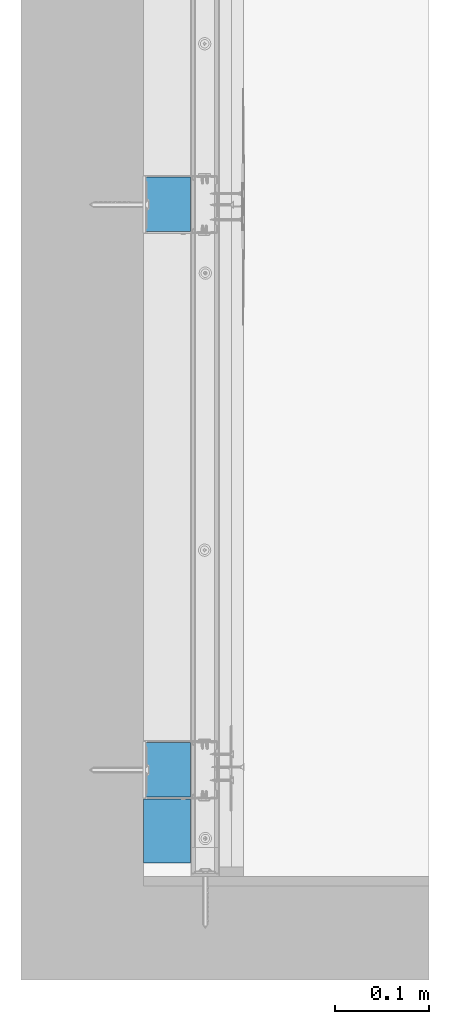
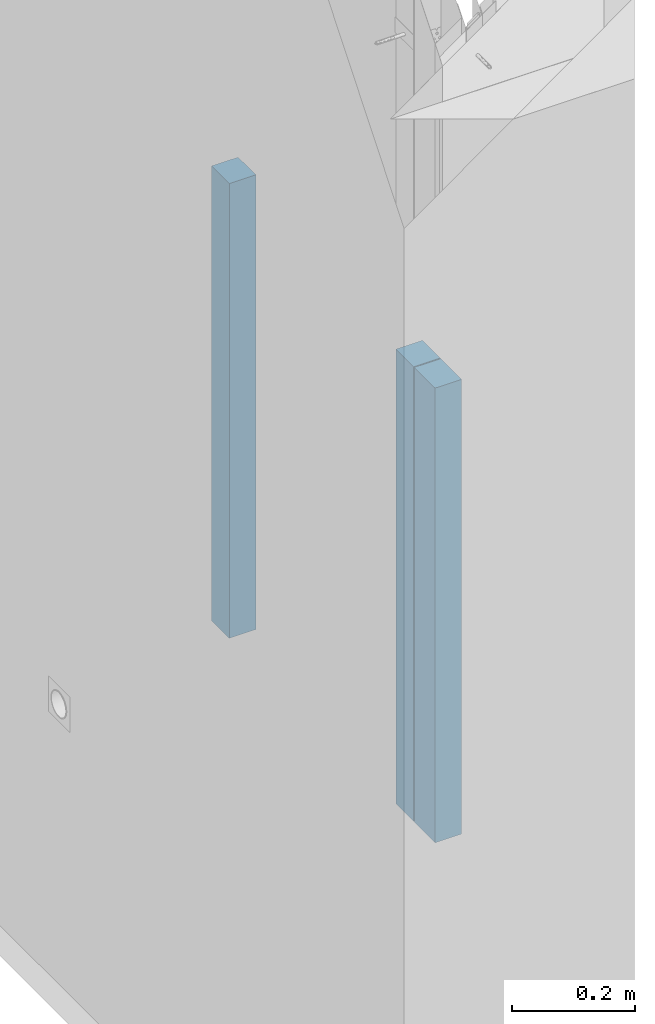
# One storey, part 9 of 61: 3 walls.
"""IFC2X3 building model written with IfcOpenShell, lengths in millimetres."""

from ifc_helpers import new_model, si_unit, frame, origin_with_axes, place, context, subcontext, project, spatial, faceted_brep, material, type_object, element, save


model = new_model("IFC2X3")

# Units and contexts
model_context = context("Model", 3, world=origin_with_axes())
body_context = subcontext(model_context, "Body", "Model", "MODEL_VIEW")
ifc_project = project(units=[si_unit("LENGTHUNIT", "METRE", prefix="MILLI"), si_unit("AREAUNIT", "SQUARE_METRE"), si_unit("VOLUMEUNIT", "CUBIC_METRE")], contexts=[model_context])

# Site, building, storey
site_placement = place(None, frame((2152.1410261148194, -2015.0250894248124, 57.61556563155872), z_axis=(0.0, 0.0, 1.0), x_axis=(-1.1102230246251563e-16, 1.0, 0.0)))
site = spatial("IfcSite", under=ifc_project, at=site_placement, Name="Default Site", CompositionType="ELEMENT")
building_placement = place(site_placement, origin_with_axes())
building = spatial("IfcBuilding", under=site, at=building_placement, Name="Default Building", CompositionType="ELEMENT")
storey_placement = place(building_placement, origin_with_axes())
storey = spatial("IfcBuildingStorey", under=building, at=storey_placement, Name="Default Building Storey", CompositionType="ELEMENT", Elevation=57.61556563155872)

# Walls
ifc_material_1 = material(Name="Default")
wall_type_1 = type_object("IfcWallType", Name="Wypełnienie z wełny mineralnej szklanej ISOVER#18", PredefinedType="NOTDEFINED")
wall_1_placement = place(storey_placement, frame((2641.062306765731, 5350.424146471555, 895.3595813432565), z_axis=(0.0, 0.0, 1.0), x_axis=(-1.0, 4.718447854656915e-16, 0.0)))
element("IfcWall", 1, at=wall_1_placement, inside=storey, type_object=wall_type_1, material=ifc_material_1, Name="Wypełnienie z wełny mineralnej szklanej ISOVER", context=body_context, shape_type="Brep", body=[
    faceted_brep([(-168.12478005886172, 3328.2832634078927, -51.71597384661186), (-168.12478005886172, 3328.2832634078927, 851.543607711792), (-225.97478152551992, 3328.2832634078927, 851.543607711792), (-225.97478152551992, 3328.2832634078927, -51.71597384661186), (-225.97478152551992, 3378.283168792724, 851.543607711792), (-168.124780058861, 3378.283168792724, 851.543607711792), (-168.124780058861, 3378.283168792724, -51.71597384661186), (-225.97478152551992, 3378.283168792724, -51.71597384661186)], [[[0, 1, 2, 3]], [[4, 5, 6, 7]], [[7, 6, 0, 3]]]),
    faceted_brep([(-168.12478005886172, 3328.2832634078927, -51.71597384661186), (-168.124780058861, 3378.283168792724, -51.71597384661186), (-168.124780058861, 3378.283168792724, 851.543607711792), (-168.12478005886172, 3328.2832634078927, 851.543607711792), (-225.97478152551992, 3328.2832634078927, 851.543607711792), (-225.97478152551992, 3378.283168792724, 851.543607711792), (-225.97478152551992, 3378.283168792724, -51.71597384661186), (-225.97478152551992, 3328.2832634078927, -51.71597384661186)], [[[0, 1, 2, 3]], [[4, 5, 6, 7]], [[5, 4, 3, 2]]]),
])
ifc_material_2 = material(Name="Undefined")
wall_type_2 = type_object("IfcWallType", Name="Wypełnienie z wełny mineralnej szklanej ISOVER#8", PredefinedType="NOTDEFINED")
wall_2_placement = place(storey_placement, frame((1971.1842541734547, 5350.424146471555, 895.3595813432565), z_axis=(0.0, 0.0, 1.0), x_axis=(-1.0, 4.718447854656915e-16, 0.0)))
element("IfcWall", 2, at=wall_2_placement, inside=storey, type_object=wall_type_2, material=ifc_material_2, Name="Wypełnienie z wełny mineralnej szklanej ISOVER", context=body_context, shape_type="Brep", body=[
    faceted_brep([(-168.12478005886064, 3328.283263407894, -51.71597384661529), (-168.12478005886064, 3328.283263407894, 851.5436077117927), (-236.00283265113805, 3328.283263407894, 851.5436077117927), (-236.00283265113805, 3328.283263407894, -51.71597384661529), (-236.00283265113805, 3378.283168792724, 851.5436077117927), (-168.12478005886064, 3378.2831687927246, 851.5436077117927), (-168.12478005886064, 3378.2831687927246, -51.71597384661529), (-236.00283265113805, 3378.283168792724, -51.71597384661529)], [[[0, 1, 2, 3]], [[4, 5, 6, 7]], [[7, 6, 0, 3]]]),
    faceted_brep([(-168.12478005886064, 3328.283263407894, -51.71597384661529), (-168.12478005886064, 3378.2831687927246, -51.71597384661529), (-168.12478005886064, 3378.2831687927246, 851.5436077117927), (-168.12478005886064, 3328.283263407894, 851.5436077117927), (-236.00283265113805, 3328.283263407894, 851.5436077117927), (-236.00283265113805, 3378.283168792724, 851.5436077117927), (-236.00283265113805, 3378.283168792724, -51.71597384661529), (-236.00283265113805, 3328.283263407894, -51.71597384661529)], [[[0, 1, 2, 3]], [[4, 5, 6, 7]], [[5, 4, 3, 2]]]),
])
wall_type_3 = type_object("IfcWallType", Name="Wypełnienie z wełny mineralnej szklanej ISOVER#17", PredefinedType="NOTDEFINED")
wall_3_placement = place(storey_placement, frame((2041.0623067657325, 5350.424146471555, 895.3595813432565), z_axis=(0.0, 0.0, 1.0), x_axis=(-1.0, 4.718447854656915e-16, 0.0)))
element("IfcWall", 3, at=wall_3_placement, inside=storey, type_object=wall_type_3, material=ifc_material_1, Name="Wypełnienie z wełny mineralnej szklanej ISOVER", context=body_context, shape_type="Brep", body=[
    faceted_brep([(-168.12478005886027, 3328.2832634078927, -51.71597384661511), (-168.12478005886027, 3328.2832634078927, 851.5436077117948), (-225.9747815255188, 3328.2832634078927, 851.5436077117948), (-225.9747815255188, 3328.2832634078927, -51.71597384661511), (-225.97478152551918, 3378.283168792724, 851.5436077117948), (-168.12478005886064, 3378.283168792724, 851.5436077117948), (-168.12478005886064, 3378.283168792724, -51.71597384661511), (-225.97478152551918, 3378.283168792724, -51.71597384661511)], [[[0, 1, 2, 3]], [[4, 5, 6, 7]], [[7, 6, 0, 3]]]),
    faceted_brep([(-168.12478005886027, 3328.2832634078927, -51.71597384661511), (-168.12478005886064, 3378.283168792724, -51.71597384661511), (-168.12478005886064, 3378.283168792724, 851.5436077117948), (-168.12478005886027, 3328.2832634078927, 851.5436077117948), (-225.9747815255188, 3328.2832634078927, 851.5436077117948), (-225.97478152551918, 3378.283168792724, 851.5436077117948), (-225.97478152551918, 3378.283168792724, -51.71597384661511), (-225.9747815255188, 3328.2832634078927, -51.71597384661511)], [[[0, 1, 2, 3]], [[4, 5, 6, 7]], [[5, 4, 3, 2]]]),
])

save(model, "model.ifc")
